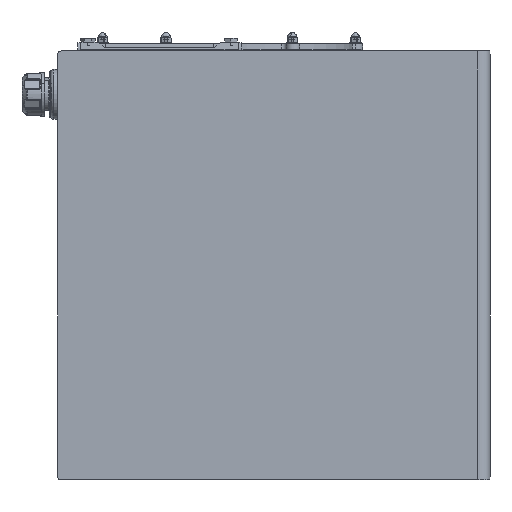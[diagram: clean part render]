
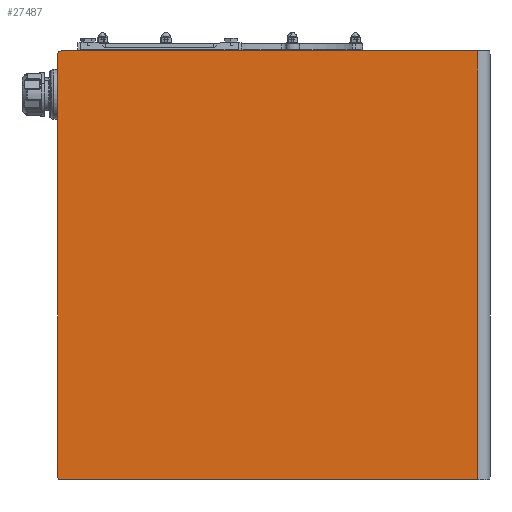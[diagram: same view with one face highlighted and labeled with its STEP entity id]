
A CAD part, left-side view. The second image highlights one B-rep face of the part: STEP entity #27487.
In plain terms, the highlighted planar face has unit normal (-1, 0, 0) as drawn and (0, 0, 1) by its records, which use the part's own axes.
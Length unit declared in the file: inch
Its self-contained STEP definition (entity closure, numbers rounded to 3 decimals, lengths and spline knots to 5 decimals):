
#828 = VERTEX_POINT ( 'NONE', #19349 ) ;
#1064 = ORIENTED_EDGE ( 'NONE', *, *, #28178, .T. ) ;
#1156 = CARTESIAN_POINT ( 'NONE',  ( 15., -15.125, 0. ) ) ;
#3086 = PLANE ( 'NONE',  #28472 ) ;
#3739 = LINE ( 'NONE', #15968, #7088 ) ;
#4889 = CARTESIAN_POINT ( 'NONE',  ( -14.75, 15.125, 0. ) ) ;
#5047 = AXIS2_PLACEMENT_3D ( 'NONE', #5150, #37021, #28723 ) ;
#5150 = CARTESIAN_POINT ( 'NONE',  ( 14.75, 14.875, 0. ) ) ;
#5971 = DIRECTION ( 'NONE',  ( 1., 0., 0. ) ) ;
#6149 = CARTESIAN_POINT ( 'NONE',  ( -15., -14.2812, 0. ) ) ;
#6292 = EDGE_LOOP ( 'NONE', ( #22593, #26769, #7884, #11676, #1064, #36907 ) ) ;
#7012 = VECTOR ( 'NONE', #18471, 39.37008 ) ;
#7088 = VECTOR ( 'NONE', #27488, 39.37008 ) ;
#7884 = ORIENTED_EDGE ( 'NONE', *, *, #19951, .T. ) ;
#8524 = VERTEX_POINT ( 'NONE', #31190 ) ;
#10512 = VERTEX_POINT ( 'NONE', #19290 ) ;
#11676 = ORIENTED_EDGE ( 'NONE', *, *, #13986, .T. ) ;
#12140 = EDGE_CURVE ( 'NONE', #10512, #8524, #20639, .T. ) ;
#12180 = DIRECTION ( 'NONE',  ( 0., -1., 0. ) ) ;
#13986 = EDGE_CURVE ( 'NONE', #15363, #26597, #28526, .T. ) ;
#13991 = FACE_OUTER_BOUND ( 'NONE', #6292, .T. ) ;
#14416 = EDGE_CURVE ( 'NONE', #828, #17952, #17671, .T. ) ;
#14843 = CARTESIAN_POINT ( 'NONE',  ( -15., -15.125, 0. ) ) ;
#15251 = AXIS2_PLACEMENT_3D ( 'NONE', #34471, #17329, #20845 ) ;
#15363 = VERTEX_POINT ( 'NONE', #4889 ) ;
#15968 = CARTESIAN_POINT ( 'NONE',  ( -15., 15.125, 0. ) ) ;
#16637 = CARTESIAN_POINT ( 'NONE',  ( 0., 0., 0. ) ) ;
#17329 = DIRECTION ( 'NONE',  ( 0., 0., 1. ) ) ;
#17468 = EDGE_CURVE ( 'NONE', #8524, #828, #33178, .T. ) ;
#17671 = CIRCLE ( 'NONE', #5047, 0.25 ) ;
#17952 = VERTEX_POINT ( 'NONE', #23656 ) ;
#18471 = DIRECTION ( 'NONE',  ( 0., 1., 0. ) ) ;
#19290 = CARTESIAN_POINT ( 'NONE',  ( -15., -14.2812, 0. ) ) ;
#19349 = CARTESIAN_POINT ( 'NONE',  ( 15., 14.875, 0. ) ) ;
#19951 = EDGE_CURVE ( 'NONE', #17952, #15363, #3739, .T. ) ;
#20639 = LINE ( 'NONE', #6149, #29378 ) ;
#20845 = DIRECTION ( 'NONE',  ( -1., 0., 0. ) ) ;
#22593 = ORIENTED_EDGE ( 'NONE', *, *, #17468, .T. ) ;
#23656 = CARTESIAN_POINT ( 'NONE',  ( 14.75, 15.125, 0. ) ) ;
#25324 = DIRECTION ( 'NONE',  ( 0., 0., -1. ) ) ;
#26597 = VERTEX_POINT ( 'NONE', #34899 ) ;
#26769 = ORIENTED_EDGE ( 'NONE', *, *, #14416, .T. ) ;
#27487 = ADVANCED_FACE ( 'NONE', ( #13991 ), #3086, .F. ) ;
#27488 = DIRECTION ( 'NONE',  ( -1., 0., 0. ) ) ;
#28178 = EDGE_CURVE ( 'NONE', #26597, #10512, #28996, .T. ) ;
#28472 = AXIS2_PLACEMENT_3D ( 'NONE', #16637, #25324, #28900 ) ;
#28526 = CIRCLE ( 'NONE', #15251, 0.25 ) ;
#28723 = DIRECTION ( 'NONE',  ( -1., 0., 0. ) ) ;
#28900 = DIRECTION ( 'NONE',  ( -1., 0., 0. ) ) ;
#28996 = LINE ( 'NONE', #14843, #34415 ) ;
#29378 = VECTOR ( 'NONE', #5971, 39.37008 ) ;
#31190 = CARTESIAN_POINT ( 'NONE',  ( 15., -14.2812, 0. ) ) ;
#33178 = LINE ( 'NONE', #1156, #7012 ) ;
#34415 = VECTOR ( 'NONE', #12180, 39.37008 ) ;
#34471 = CARTESIAN_POINT ( 'NONE',  ( -14.75, 14.875, 0. ) ) ;
#34899 = CARTESIAN_POINT ( 'NONE',  ( -15., 14.875, 0. ) ) ;
#36907 = ORIENTED_EDGE ( 'NONE', *, *, #12140, .T. ) ;
#37021 = DIRECTION ( 'NONE',  ( 0., 0., 1. ) ) ;
